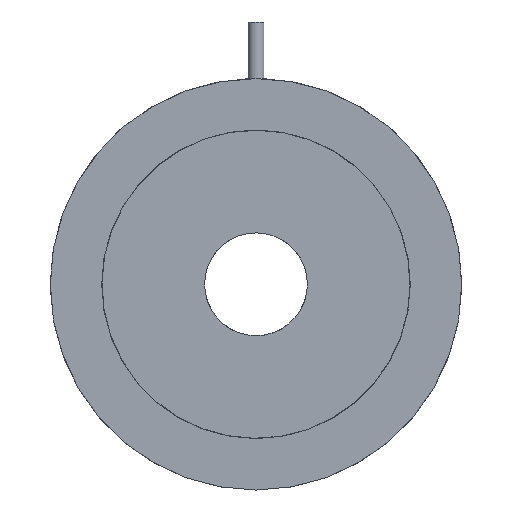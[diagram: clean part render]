
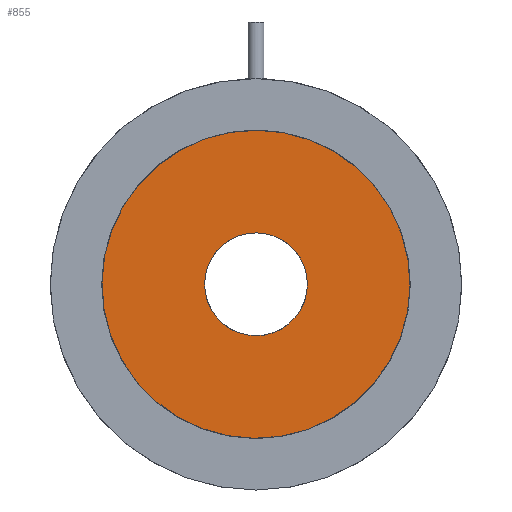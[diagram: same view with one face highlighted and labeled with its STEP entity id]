
A CAD part, front view. The second image highlights one B-rep face of the part: STEP entity #855.
In plain terms, the highlighted planar face has unit normal (0, -1, 0).
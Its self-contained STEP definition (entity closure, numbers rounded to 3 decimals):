
#129=FACE_BOUND('',#236,.T.);
#173=FACE_OUTER_BOUND('',#235,.T.);
#235=EDGE_LOOP('',(#730,#731));
#236=EDGE_LOOP('',(#732,#733));
#305=CIRCLE('',#983,29.95);
#306=CIRCLE('',#984,29.95);
#311=CIRCLE('',#990,10.);
#312=CIRCLE('',#991,10.);
#392=VERTEX_POINT('',#1647);
#393=VERTEX_POINT('',#1648);
#398=VERTEX_POINT('',#1661);
#399=VERTEX_POINT('',#1663);
#502=EDGE_CURVE('',#392,#393,#305,.T.);
#503=EDGE_CURVE('',#393,#392,#306,.T.);
#510=EDGE_CURVE('',#398,#399,#311,.T.);
#511=EDGE_CURVE('',#399,#398,#312,.T.);
#730=ORIENTED_EDGE('',*,*,#502,.T.);
#731=ORIENTED_EDGE('',*,*,#503,.T.);
#732=ORIENTED_EDGE('',*,*,#511,.F.);
#733=ORIENTED_EDGE('',*,*,#510,.F.);
#762=PLANE('',#997);
#855=ADVANCED_FACE('',(#173,#129),#762,.F.);
#983=AXIS2_PLACEMENT_3D('',#1649,#1234,#1235);
#984=AXIS2_PLACEMENT_3D('',#1650,#1236,#1237);
#990=AXIS2_PLACEMENT_3D('',#1664,#1250,#1251);
#991=AXIS2_PLACEMENT_3D('',#1665,#1252,#1253);
#997=AXIS2_PLACEMENT_3D('',#1676,#1265,#1266);
#1234=DIRECTION('center_axis',(0.,-1.,0.));
#1235=DIRECTION('ref_axis',(0.943,0.,0.333));
#1236=DIRECTION('center_axis',(0.,-1.,0.));
#1237=DIRECTION('ref_axis',(0.943,0.,0.333));
#1250=DIRECTION('center_axis',(0.,-1.,0.));
#1251=DIRECTION('ref_axis',(0.943,0.,0.333));
#1252=DIRECTION('center_axis',(0.,-1.,0.));
#1253=DIRECTION('ref_axis',(0.943,0.,0.333));
#1265=DIRECTION('center_axis',(0.,1.,0.));
#1266=DIRECTION('ref_axis',(-0.943,0.,-0.333));
#1647=CARTESIAN_POINT('',(28.245,-16.,9.961));
#1648=CARTESIAN_POINT('',(-28.245,-16.,-9.961));
#1649=CARTESIAN_POINT('Origin',(0.,-16.,
0.));
#1650=CARTESIAN_POINT('Origin',(0.,-16.,
0.));
#1661=CARTESIAN_POINT('',(-9.431,-16.,-3.326));
#1663=CARTESIAN_POINT('',(9.431,-16.,3.326));
#1664=CARTESIAN_POINT('Origin',(0.,-16.,
0.));
#1665=CARTESIAN_POINT('Origin',(0.,-16.,
0.));
#1676=CARTESIAN_POINT('Origin',(0.,-16.,
0.));
